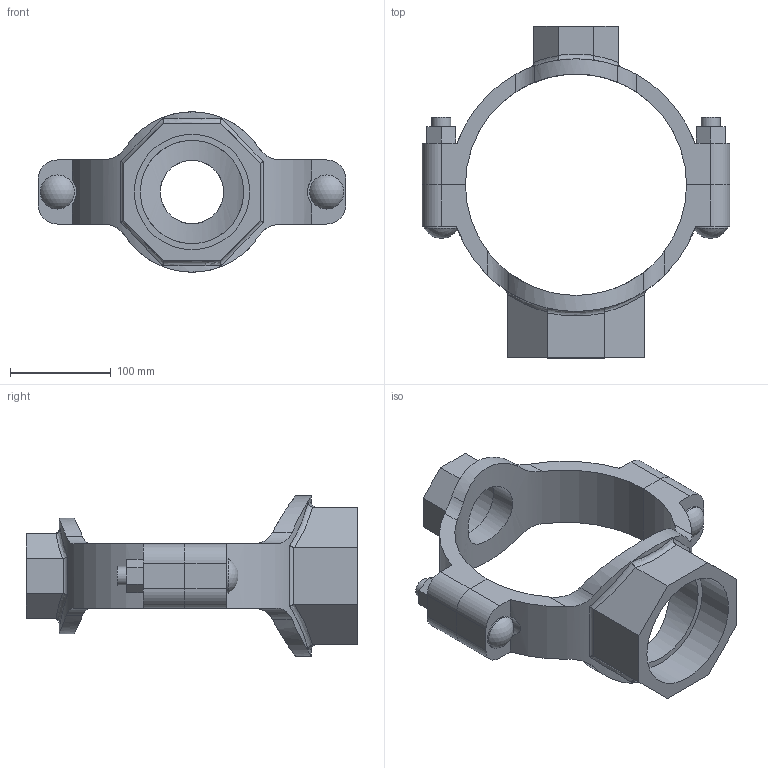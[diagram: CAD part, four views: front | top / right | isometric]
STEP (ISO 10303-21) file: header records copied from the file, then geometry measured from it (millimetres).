
FILE_DESCRIPTION(/* description */ ('VIC MECH-T BRANCH OUTLET CROSS STYLE 920N (THD)','CAx-IF Rec.Pracs.---Representation and Presentation of Product Manufacturing Information (PMI)---4.0---2014-10-13'),/* implementation_level */ '2;1');
FILE_NAME(/* name */ 'C:\Users\Vjadhav\AppData\Roaming\Autodesk\ApplicationPlugins\Back Up\Victaulic_IPS_Mechanical-Cross Outlet_Style 920N (FPT)\Victaulic_IPS_Mechanical-Cross Outlet_08.0x02.5 (76.1)x04.0 (200x65x100).stp',/* time_stamp */ '2020-08-06T19:01:06+06:00',/* author */ ('Vjadhav'),/* organization */ ('Victaulic'),/* preprocessor_version */ 'ST-DEVELOPER v17.2',/* originating_system */ 'Autodesk Inventor 2019',/* authorisation */ '');
FILE_SCHEMA (('AP242_MANAGED_MODEL_BASED_3D_ENGINEERING_MIM_LF { 1 0 10303 442 1 1 4 }'));
Length unit declared in the file: inch
Products named in the file (3): 920NT-08.0x02.5 (76.1)x04.0; 920T-08.0x02.5 (76.1); 920T-08.0x04.0
Assembly tree (2 placements, depth 2):
  920NT-08.0x02.5 (76.1)x04.0
    920T-08.0x02.5 (76.1)
    920T-08.0x04.0
Bounding box: 304.8 x 328.68 x 158.74 mm (x, y, z)
Volume: 1429799.3 mm3; surface area: 246587.2 mm2
Topology: 2 solids, 2 shells, 132 faces, 350 edges, 236 vertices
Faces by surface type: plane 68, cylinder 50, bspline 8, torus 4, sphere 2
Full cylindrical faces by diameter (mm): 19.05 x4, 33.843 x2, 62.738 x1, 76.2 x1, 102.394 x1, 114.3 x1
Entity records: 5189 total; most frequent: CARTESIAN_POINT 1676, ORIENTED_EDGE 700, DIRECTION 648, EDGE_CURVE 350, VERTEX_POINT 236, AXIS2_PLACEMENT_3D 231, LINE 186, VECTOR 186
